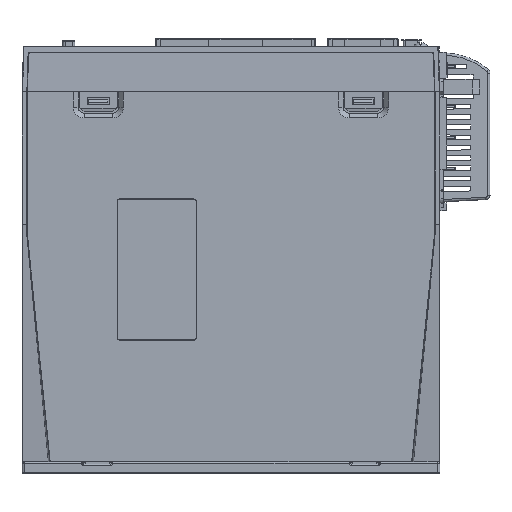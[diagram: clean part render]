
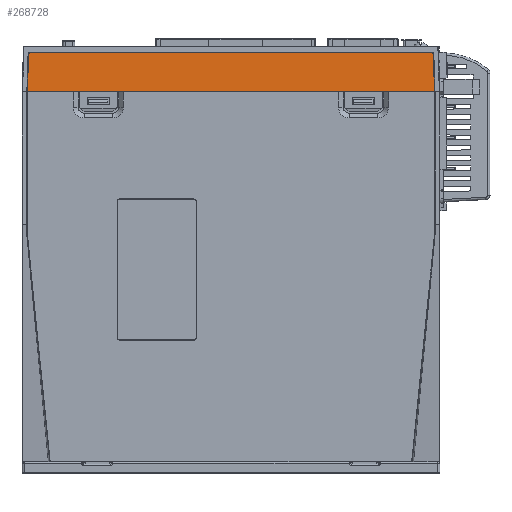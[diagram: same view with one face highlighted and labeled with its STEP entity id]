
A CAD part, left-side view. The second image highlights one B-rep face of the part: STEP entity #268728.
In plain terms, the highlighted planar face has unit normal (-0.999, 0, 0.035).
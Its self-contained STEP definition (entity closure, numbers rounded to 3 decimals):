
#245658=DIRECTION('',(0.,-1.,0.));
#245659=VECTOR('',#245658,170.464);
#245660=CARTESIAN_POINT('',(-40.,86.844,
0.));
#245661=LINE('',#245660,#245659);
#249894=DIRECTION('',(-0.035,-0.033,
-0.999));
#249895=VECTOR('',#249894,15.403);
#249896=CARTESIAN_POINT('',(-39.463,-83.109,
15.385));
#249897=LINE('',#249896,#249895);
#249901=DIRECTION('',(0.035,-0.033,0.999));
#249902=VECTOR('',#249901,15.403);
#249903=CARTESIAN_POINT('',(-40.,86.844,
0.));
#249904=LINE('',#249903,#249902);
#249916=CARTESIAN_POINT('',(-39.463,-83.109,
15.385));
#249917=CARTESIAN_POINT('',(-39.459,-83.105,
15.489));
#249918=CARTESIAN_POINT('',(-39.452,-83.062,
15.681));
#249919=CARTESIAN_POINT('',(-39.443,-82.886,
15.942));
#249920=CARTESIAN_POINT('',(-39.437,-82.622,
16.114));
#249921=CARTESIAN_POINT('',(-39.436,-82.43,
16.154));
#249922=CARTESIAN_POINT('',(-39.436,-82.326,
16.157));
#249981=DIRECTION('',(0.,1.,0.));
#249982=VECTOR('',#249981,167.862);
#249983=CARTESIAN_POINT('',(-39.436,-82.326,
16.157));
#249984=LINE('',#249983,#249982);
#249995=CARTESIAN_POINT('',(-39.448,86.201,
15.801));
#249996=CARTESIAN_POINT('',(-39.45,86.229,
15.759));
#249997=CARTESIAN_POINT('',(-39.453,86.275,
15.673));
#249998=CARTESIAN_POINT('',(-39.458,86.321,
15.531));
#249999=CARTESIAN_POINT('',(-39.461,86.333,
15.434));
#250000=CARTESIAN_POINT('',(-39.463,86.335,
15.385));
#250021=CARTESIAN_POINT('',(-39.436,85.535,
16.157));
#250022=CARTESIAN_POINT('',(-39.436,85.626,
16.156));
#250023=CARTESIAN_POINT('',(-39.437,85.797,
16.128));
#250024=CARTESIAN_POINT('',(-39.441,86.034,
16.001));
#250025=CARTESIAN_POINT('',(-39.446,86.151,
15.875));
#250026=CARTESIAN_POINT('',(-39.448,86.201,
15.801));
#250031=CARTESIAN_POINT('',(-40.,86.844,
0.));
#262349=VERTEX_POINT('',#250031);
#262350=CARTESIAN_POINT('',(-40.,-83.619,
0.));
#262351=VERTEX_POINT('',#262350);
#263559=CARTESIAN_POINT('',(-39.463,-83.109,
15.385));
#263560=VERTEX_POINT('',#263559);
#263561=VERTEX_POINT('',#249922);
#263562=CARTESIAN_POINT('',(-39.463,86.335,
15.385));
#263563=VERTEX_POINT('',#263562);
#263564=VERTEX_POINT('',#249995);
#263565=VERTEX_POINT('',#250021);
#268709=CARTESIAN_POINT('',(-40.,86.844,
0.));
#268710=DIRECTION('',(-0.999,0.,0.035));
#268711=DIRECTION('',(0.035,0.,0.999));
#268712=AXIS2_PLACEMENT_3D('',#268709,#268710,#268711);
#268713=PLANE('',#268712);
#268715=ORIENTED_EDGE('',*,*,#268714,.F.);
#268716=ORIENTED_EDGE('',*,*,#268702,.T.);
#268717=ORIENTED_EDGE('',*,*,#265545,.F.);
#268719=ORIENTED_EDGE('',*,*,#268718,.T.);
#268721=ORIENTED_EDGE('',*,*,#268720,.F.);
#268723=ORIENTED_EDGE('',*,*,#268722,.F.);
#268725=ORIENTED_EDGE('',*,*,#268724,.F.);
#268726=EDGE_LOOP('',(#268715,#268716,#268717,#268719,#268721,#268723,#268725));
#268727=FACE_OUTER_BOUND('',#268726,.F.);
#249923=B_SPLINE_CURVE_WITH_KNOTS('',3,(#249916,#249917,#249918,#249919,#249920,
#249921,#249922),.UNSPECIFIED.,.F.,.F.,(4,1,1,1,4),(0.,0.25,0.5,0.75,
1.),.UNSPECIFIED.);
#250001=B_SPLINE_CURVE_WITH_KNOTS('',3,(#249995,#249996,#249997,#249998,#249999,
#250000),.UNSPECIFIED.,.F.,.F.,(4,1,1,4),(0.,0.333,
0.667,1.),.UNSPECIFIED.);
#250027=B_SPLINE_CURVE_WITH_KNOTS('',3,(#250021,#250022,#250023,#250024,#250025,
#250026),.UNSPECIFIED.,.F.,.F.,(4,1,1,4),(0.,0.333,
0.667,1.),.UNSPECIFIED.);
#265545=EDGE_CURVE('',#262349,#262351,#245661,.T.);
#268702=EDGE_CURVE('',#263560,#262351,#249897,.T.);
#268714=EDGE_CURVE('',#263560,#263561,#249923,.T.);
#268718=EDGE_CURVE('',#262349,#263563,#249904,.T.);
#268720=EDGE_CURVE('',#263564,#263563,#250001,.T.);
#268722=EDGE_CURVE('',#263565,#263564,#250027,.T.);
#268724=EDGE_CURVE('',#263561,#263565,#249984,.T.);
#268728=ADVANCED_FACE('',(#268727),#268713,.T.);
